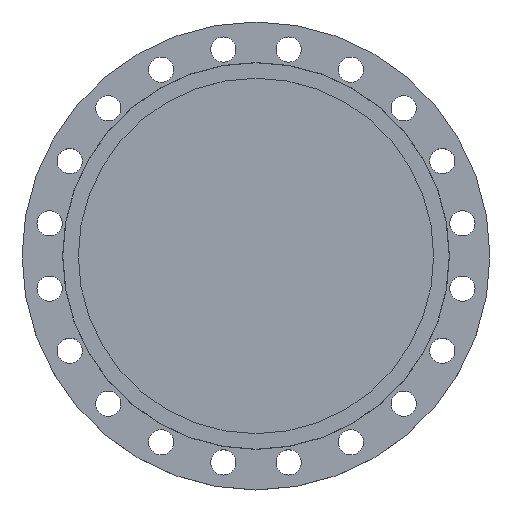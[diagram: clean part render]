
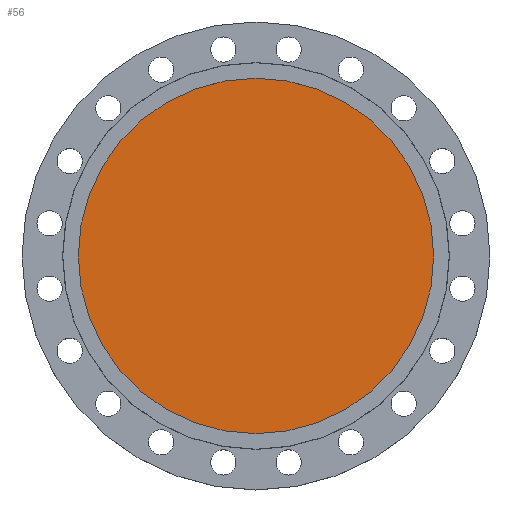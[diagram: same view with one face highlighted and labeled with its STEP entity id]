
A CAD part, top view. The second image highlights one B-rep face of the part: STEP entity #56.
In plain terms, the highlighted planar face has unit normal (0, 0, 1).
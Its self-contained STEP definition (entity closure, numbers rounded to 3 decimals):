
#55 = CARTESIAN_POINT ( 'NONE',  ( 338., 0., -5. ) ) ;
#56 = ADVANCED_FACE ( 'NONE', ( #1175 ), #1174, .T. ) ;
#83 = AXIS2_PLACEMENT_3D ( 'NONE', #1173, #1172, #1170 ) ;
#217 = CARTESIAN_POINT ( 'NONE',  ( -338., 0., -5. ) ) ;
#703 = CARTESIAN_POINT ( 'NONE',  ( 0., 0., -5. ) ) ;
#704 = DIRECTION ( 'NONE',  ( 0., 0., -1. ) ) ;
#705 = DIRECTION ( 'NONE',  ( -1., 0., 0. ) ) ;
#817 = DIRECTION ( 'NONE',  ( -1., 0., 0. ) ) ;
#819 = DIRECTION ( 'NONE',  ( 0., 0., -1. ) ) ;
#821 = CARTESIAN_POINT ( 'NONE',  ( 0., 0., -5. ) ) ;
#857 = AXIS2_PLACEMENT_3D ( 'NONE', #703, #704, #705 ) ;
#935 = AXIS2_PLACEMENT_3D ( 'NONE', #821, #819, #817 ) ;
#1041 = EDGE_CURVE ( 'NONE', #1651, #1872, #1649, .T. ) ;
#1170 = DIRECTION ( 'NONE',  ( 1., 0., 0. ) ) ;
#1172 = DIRECTION ( 'NONE',  ( 0., 0., 1. ) ) ;
#1173 = CARTESIAN_POINT ( 'NONE',  ( 338., 0., -5. ) ) ;
#1174 = PLANE ( 'NONE',  #83 ) ;
#1175 = FACE_OUTER_BOUND ( 'NONE', #1245, .T. ) ;
#1196 = EDGE_CURVE ( 'NONE', #1872, #1651, #1612, .T. ) ;
#1245 = EDGE_LOOP ( 'NONE', ( #1630, #1631 ) ) ;
#1612 = CIRCLE ( 'NONE', #857, 338. ) ;
#1630 = ORIENTED_EDGE ( 'NONE', *, *, #1041, .F. ) ;
#1631 = ORIENTED_EDGE ( 'NONE', *, *, #1196, .F. ) ;
#1649 = CIRCLE ( 'NONE', #935, 338. ) ;
#1651 = VERTEX_POINT ( 'NONE', #217 ) ;
#1872 = VERTEX_POINT ( 'NONE', #55 ) ;
